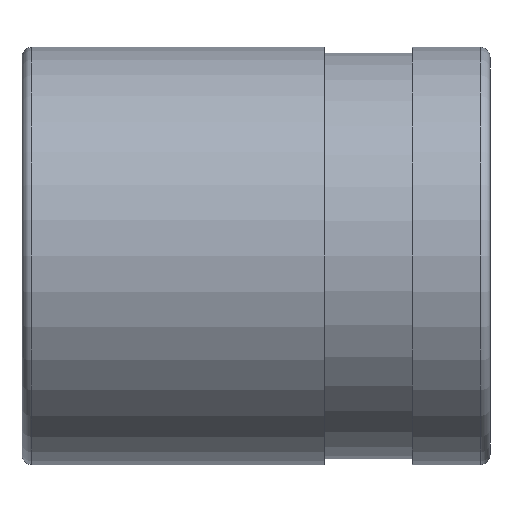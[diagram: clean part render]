
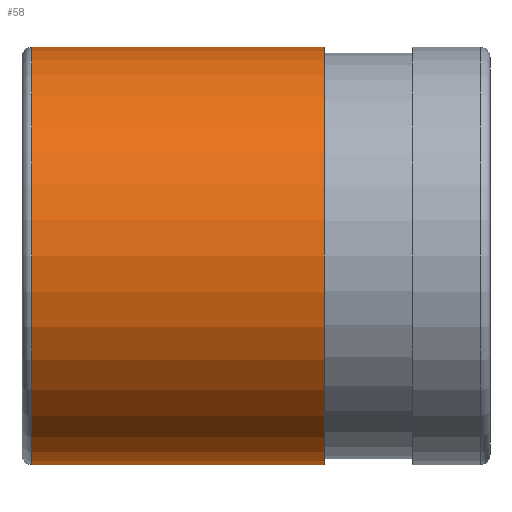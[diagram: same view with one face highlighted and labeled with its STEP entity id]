
A CAD part, left-side view. The second image highlights one B-rep face of the part: STEP entity #58.
In plain terms, the highlighted cylindrical face has radius 10.7 mm (diameter 21.4 mm), a full revolution.
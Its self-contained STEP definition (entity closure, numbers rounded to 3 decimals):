
#58=ADVANCED_FACE('',(#184,#186),#188,.T.);
#184=FACE_OUTER_BOUND('',#185,.T.);
#185=EDGE_LOOP('',(#256));
#186=FACE_OUTER_BOUND('',#187,.T.);
#187=EDGE_LOOP('',(#257));
#188=CYLINDRICAL_SURFACE('',#189,10.7);
#189=AXIS2_PLACEMENT_3D('',#190,#191,#192);
#190=CARTESIAN_POINT('',(0.,0.,0.));
#191=DIRECTION('',(0.,1.,0.));
#192=DIRECTION('',(-1.,0.,0.));
#256=ORIENTED_EDGE('',*,*,#282,.F.);
#257=ORIENTED_EDGE('',*,*,#284,.T.);
#282=EDGE_CURVE('',#320,#320,#321,.T.);
#284=EDGE_CURVE('',#324,#324,#325,.T.);
#320=VERTEX_POINT('',#416);
#321=CIRCLE('',#417,10.7);
#324=VERTEX_POINT('',#426);
#325=CIRCLE('',#427,10.7);
#416=CARTESIAN_POINT('',(-10.7,23.5,0.));
#417=AXIS2_PLACEMENT_3D('',#418,#419,#420);
#418=CARTESIAN_POINT('',(0.,23.5,0.));
#419=DIRECTION('',(0.,1.,0.));
#420=DIRECTION('',(-1.,0.,0.));
#426=CARTESIAN_POINT('',(-10.7,8.5,0.));
#427=AXIS2_PLACEMENT_3D('',#428,#429,#430);
#428=CARTESIAN_POINT('',(0.,8.5,0.));
#429=DIRECTION('',(0.,1.,0.));
#430=DIRECTION('',(-1.,0.,0.));
